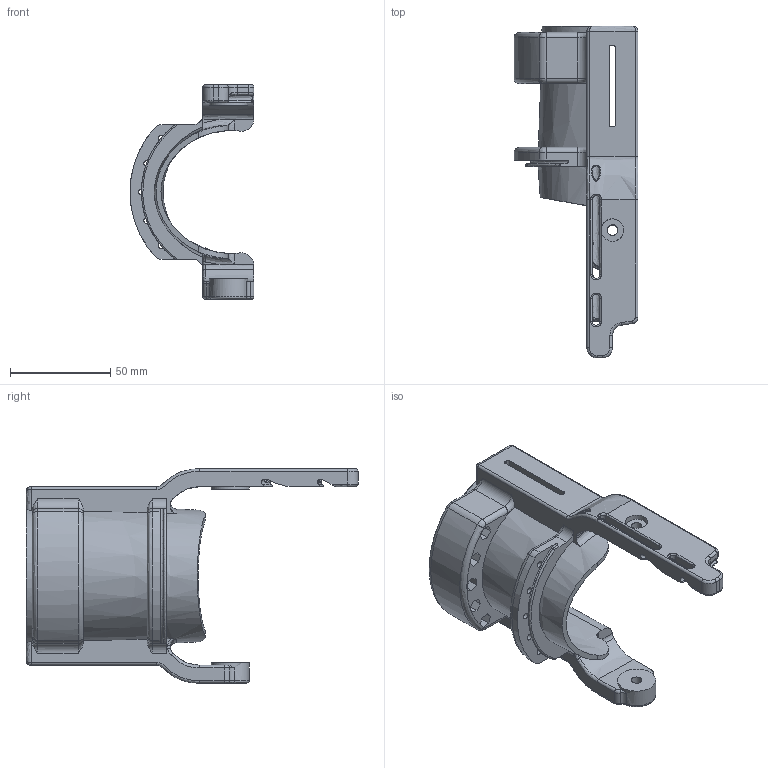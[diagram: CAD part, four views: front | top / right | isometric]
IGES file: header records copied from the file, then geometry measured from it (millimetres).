
Global section: file name: triceps cuff; native system: Autodesk Inventor 2015; preprocessor: unknown; author: Jascha; date: 20140729.165118; units: inch
Bounding box: 61.7 x 165.24 x 106.68 mm (x, y, z)
Volume: 119918.4 mm3; surface area: 46604 mm2
Topology: 1 solids, 1 shells, 283 faces, 774 edges, 483 vertices
Faces by surface type: bspline 283
